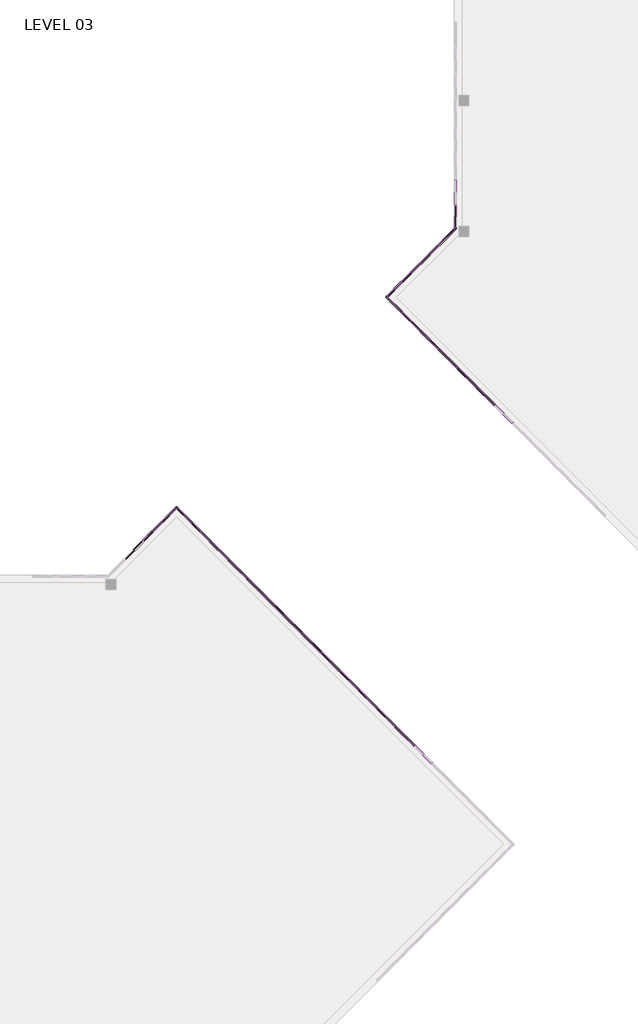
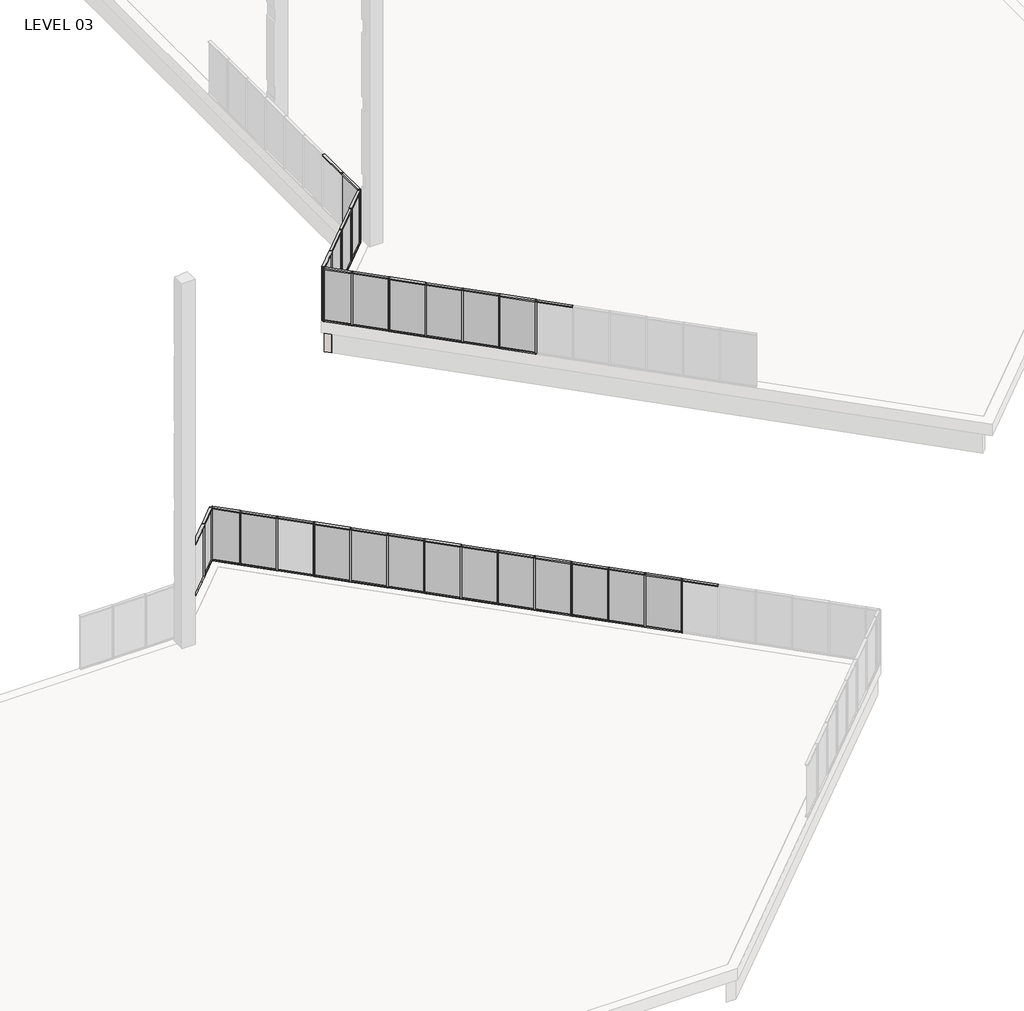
# One storey, part 9 of 18: 85 members, 24 plates, 2 walls.
"""IFC4 building model written with IfcOpenShell, lengths in millimetres."""

from ifc_helpers import new_model, si_unit, origin, place, context, project, spatial, faceted_brep, transform, mapped, element, save
from components import member_5247f267, member_e44af9ab, member_800970d4, member_910c08c9, member_dd9f6d43, member_45eb7f2e, plate_67294edd, plate_88df3e37, plate_c3b8b83d, plate_6ecefdb5, plate_9c66726c, plate_129ab9d0

model = new_model("IFC4")

# Units and contexts
model_context = context("Model", 3, world=origin())
ifc_project = project(units=[si_unit("LENGTHUNIT", "METRE", prefix="MILLI")], contexts=[model_context])

# Site, building, storey
site = spatial("IfcSite", under=ifc_project)
building = spatial("IfcBuilding", under=site)
storey = spatial("IfcBuildingStorey", under=building, Name="LEVEL 03", Elevation=8280.4)

# Members
placement = place(None, origin())
member_shape = member_5247f267(model_context)
element("IfcMember", 1, ObjectType="Rectangular Mullion : 2\" x 4.5\" rectangular", at=placement, inside=storey, context=model_context, shape_type="MappedRepresentation", body=[
    mapped(member_shape, transform((58839.186821, 16282.6021867, 8280.4), x_axis=(0.0, 0.0, -1.0), y_axis=(0.7071067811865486, 0.7071067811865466, 0.0), z_axis=(0.7071067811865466, -0.7071067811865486, 0.0))),
])
element("IfcMember", 2, ObjectType="Rectangular Mullion : 2\" x 4.5\" rectangular", at=placement, inside=storey, context=model_context, shape_type="MappedRepresentation", body=[
    mapped(member_shape, transform((57761.5560865, 17360.2329212, 8280.4), x_axis=(0.0, 0.0, -1.0), y_axis=(0.7071067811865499, 0.7071067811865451, 0.0), z_axis=(0.7071067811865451, -0.7071067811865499, 0.0))),
])
element("IfcMember", 3, ObjectType="Rectangular Mullion : 2\" x 4.5\" rectangular", at=placement, inside=storey, context=model_context, shape_type="MappedRepresentation", body=[
    mapped(member_shape, transform((56683.925352, 18437.8636558, 8280.4), x_axis=(0.0, 0.0, -1.0), y_axis=(0.7071067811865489, 0.7071067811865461, 0.0), z_axis=(0.7071067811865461, -0.7071067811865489, 0.0))),
])
element("IfcMember", 4, ObjectType="Rectangular Mullion : 2\" x 4.5\" rectangular", at=placement, inside=storey, context=model_context, shape_type="MappedRepresentation", body=[
    mapped(member_shape, transform((53451.3904937, 21670.3985141, 8280.4), x_axis=(0.0, 0.0, -1.0), y_axis=(0.7071067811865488, 0.7071067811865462, 0.0), z_axis=(0.7071067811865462, -0.7071067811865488, 0.0))),
])
element("IfcMember", 5, ObjectType="Rectangular Mullion : 2\" x 4.5\" rectangular", at=placement, inside=storey, context=model_context, shape_type="MappedRepresentation", body=[
    mapped(member_shape, transform((52373.7597592, 22748.0292486, 8280.4), x_axis=(0.0, 0.0, -1.0), y_axis=(0.7071067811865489, 0.7071067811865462, 0.0), z_axis=(0.7071067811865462, -0.7071067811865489, 0.0))),
])
element("IfcMember", 6, ObjectType="Rectangular Mullion : 2\" x 4.5\" rectangular", at=placement, inside=storey, context=model_context, shape_type="MappedRepresentation", body=[
    mapped(member_shape, transform((51296.1290246, 23825.6599831, 8280.4), x_axis=(0.0, 0.0, -1.0), y_axis=(0.7071067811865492, 0.7071067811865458, 0.0), z_axis=(0.7071067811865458, -0.7071067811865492, 0.0))),
])
element("IfcMember", 7, ObjectType="Rectangular Mullion : 2\" x 4.5\" rectangular", at=placement, inside=storey, context=model_context, shape_type="MappedRepresentation", body=[
    mapped(member_shape, transform((44188.0075145, 29177.8965222, 8280.4), x_axis=(0.0, 0.0, -1.0), y_axis=(-0.7071067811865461, 0.7071067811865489, 0.0), z_axis=(0.7071067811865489, 0.7071067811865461, 0.0))),
])
element("IfcMember", 8, ObjectType="Rectangular Mullion : 2\" x 4.5\" rectangular", at=placement, inside=storey, context=model_context, shape_type="MappedRepresentation", body=[
    mapped(member_shape, transform((50218.4982901, 24903.2907176, 8280.4), x_axis=(0.0, 0.0, -1.0), y_axis=(0.7071067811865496, 0.7071067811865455, 0.0), z_axis=(0.7071067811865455, -0.7071067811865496, 0.0))),
])
element("IfcMember", 9, ObjectType="Rectangular Mullion : 2\" x 4.5\" rectangular", at=placement, inside=storey, context=model_context, shape_type="MappedRepresentation", body=[
    mapped(member_shape, transform((49140.8675556, 25980.9214522, 8280.4), x_axis=(0.0, 0.0, -1.0), y_axis=(0.7071067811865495, 0.7071067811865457, 0.0), z_axis=(0.7071067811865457, -0.7071067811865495, 0.0))),
])
element("IfcMember", 10, ObjectType="Rectangular Mullion : 2\" x 4.5\" rectangular", at=placement, inside=storey, context=model_context, shape_type="MappedRepresentation", body=[
    mapped(member_shape, transform((48063.236821, 27058.5521867, 8280.4), x_axis=(0.0, 0.0, -1.0), y_axis=(0.7071067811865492, 0.7071067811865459, 0.0), z_axis=(0.7071067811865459, -0.7071067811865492, 0.0))),
])
element("IfcMember", 11, ObjectType="Rectangular Mullion : 2\" x 4.5\" rectangular", at=placement, inside=storey, context=model_context, shape_type="MappedRepresentation", body=[
    mapped(member_shape, transform((46985.6060865, 28136.1829212, 8280.4), x_axis=(0.0, 0.0, -1.0), y_axis=(0.707106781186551, 0.7071067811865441, 0.0), z_axis=(0.7071067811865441, -0.707106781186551, 0.0))),
])
element("IfcMember", 12, ObjectType="Rectangular Mullion : 2\" x 4.5\" rectangular", at=placement, inside=storey, context=model_context, shape_type="MappedRepresentation", body=[
    mapped(member_shape, transform((43110.3767799, 28100.2657877, 8280.4), x_axis=(0.0, 0.0, -1.0), y_axis=(-0.7071067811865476, 0.7071067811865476, 0.0), z_axis=(0.7071067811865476, 0.7071067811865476, 0.0))),
])
element("IfcMember", 13, ObjectType="Rectangular Mullion : 2\" x 4.5\" rectangular", at=placement, inside=storey, context=model_context, shape_type="MappedRepresentation", body=[
    mapped(member_shape, transform((58875.1078455, 16246.6811622, 10871.2), x_axis=(0.0, 0.0, 1.0), y_axis=(0.7071067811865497, 0.7071067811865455, 0.0), z_axis=(-0.7071067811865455, 0.7071067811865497, 0.0))),
])
element("IfcMember", 14, ObjectType="Rectangular Mullion : 2\" x 4.5\" rectangular", at=placement, inside=storey, context=model_context, shape_type="MappedRepresentation", body=[
    mapped(member_shape, transform((57797.477111, 17324.3118967, 10871.2), x_axis=(0.0, 0.0, 1.0), y_axis=(0.7071067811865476, 0.7071067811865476, 0.0), z_axis=(-0.7071067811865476, 0.7071067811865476, 0.0))),
])
element("IfcMember", 15, ObjectType="Rectangular Mullion : 2\" x 4.5\" rectangular", at=placement, inside=storey, context=model_context, shape_type="MappedRepresentation", body=[
    mapped(member_shape, transform((56719.8463765, 18401.9426313, 10871.2), x_axis=(0.0, 0.0, 1.0), y_axis=(0.7071067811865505, 0.7071067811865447, 0.0), z_axis=(-0.7071067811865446, 0.7071067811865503, 0.0))),
])
element("IfcMember", 16, ObjectType="Rectangular Mullion : 2\" x 4.5\" rectangular", at=placement, inside=storey, context=model_context, shape_type="MappedRepresentation", body=[
    mapped(member_shape, transform((55642.2156419, 19479.5733658, 10871.2), x_axis=(0.0, 0.0, 1.0), y_axis=(0.707106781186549, 0.7071067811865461, 0.0), z_axis=(-0.707106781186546, 0.7071067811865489, 0.0))),
])
element("IfcMember", 17, ObjectType="Rectangular Mullion : 2\" x 4.5\" rectangular", at=placement, inside=storey, context=model_context, shape_type="MappedRepresentation", body=[
    mapped(member_shape, transform((52409.6807836, 22712.1082241, 10871.2), x_axis=(0.0, 0.0, 1.0), y_axis=(0.7071067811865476, 0.7071067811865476, 0.0), z_axis=(-0.7071067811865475, 0.7071067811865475, 0.0))),
])
element("IfcMember", 18, ObjectType="Rectangular Mullion : 2\" x 4.5\" rectangular", at=placement, inside=storey, context=model_context, shape_type="MappedRepresentation", body=[
    mapped(member_shape, transform((51332.0500491, 23789.7389586, 10871.2), x_axis=(0.0, 0.0, 1.0), y_axis=(0.7071067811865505, 0.7071067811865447, 0.0), z_axis=(-0.7071067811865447, 0.7071067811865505, 0.0))),
])
element("IfcMember", 19, ObjectType="Rectangular Mullion : 2\" x 4.5\" rectangular", at=placement, inside=storey, context=model_context, shape_type="MappedRepresentation", body=[
    mapped(member_shape, transform((50254.4193146, 24867.3696932, 10871.2), x_axis=(0.0, 0.0, 1.0), y_axis=(0.7071067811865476, 0.7071067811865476, 0.0), z_axis=(-0.7071067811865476, 0.7071067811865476, 0.0))),
])
element("IfcMember", 20, ObjectType="Rectangular Mullion : 2\" x 4.5\" rectangular", at=placement, inside=storey, context=model_context, shape_type="MappedRepresentation", body=[
    mapped(member_shape, transform((49176.7885801, 25945.0004277, 10871.2), x_axis=(0.0, 0.0, 1.0), y_axis=(0.7071067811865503, 0.7071067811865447, 0.0), z_axis=(-0.7071067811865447, 0.7071067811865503, 0.0))),
])
element("IfcMember", 21, ObjectType="Rectangular Mullion : 2\" x 4.5\" rectangular", at=placement, inside=storey, context=model_context, shape_type="MappedRepresentation", body=[
    mapped(member_shape, transform((48099.1578455, 27022.6311622, 10871.2), x_axis=(0.0, 0.0, 1.0), y_axis=(0.707106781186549, 0.7071067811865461, 0.0), z_axis=(-0.7071067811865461, 0.707106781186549, 0.0))),
])
element("IfcMember", 22, ObjectType="Rectangular Mullion : 2\" x 4.5\" rectangular", at=placement, inside=storey, context=model_context, shape_type="MappedRepresentation", body=[
    mapped(member_shape, transform((47021.527111, 28100.2618967, 10871.2), x_axis=(0.0, 0.0, 1.0), y_axis=(0.707106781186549, 0.7071067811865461, 0.0), z_axis=(-0.707106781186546, 0.7071067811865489, 0.0))),
])
element("IfcMember", 23, ObjectType="Rectangular Mullion : 2\" x 4.5\" rectangular", at=placement, inside=storey, context=model_context, shape_type="MappedRepresentation", body=[
    mapped(member_shape, transform((45943.8963765, 29177.8926313, 10871.2), x_axis=(0.0, 0.0, 1.0), y_axis=(0.7071067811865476, 0.7071067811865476, 0.0), z_axis=(-0.7071067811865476, 0.7071067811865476, 0.0))),
])
element("IfcMember", 24, ObjectType="Rectangular Mullion : 2\" x 4.5\" rectangular", at=placement, inside=storey, context=model_context, shape_type="MappedRepresentation", body=[
    mapped(member_shape, transform((43146.2978044, 28136.1868122, 10871.2), x_axis=(0.0, 0.0, 1.0), y_axis=(-0.707106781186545, 0.70710678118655, 0.0), z_axis=(-0.7071067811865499, -0.7071067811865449, 0.0))),
])
member_2_shape = member_e44af9ab(model_context)
element("IfcMember", 25, ObjectType="Rectangular Mullion : 2\" x 4.5\" rectangular", at=placement, inside=storey, context=model_context, shape_type="MappedRepresentation", body=[
    mapped(member_2_shape, transform((58857.1473333, 16264.6416745, 8280.4), x_axis=(-0.7071067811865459, 0.7071067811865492, 0.0), y_axis=(0.7071067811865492, 0.7071067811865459, 0.0), z_axis=(0.0, 0.0, -1.0))),
])
element("IfcMember", 26, ObjectType="Rectangular Mullion : 2\" x 4.5\" rectangular", at=placement, inside=storey, context=model_context, shape_type="MappedRepresentation", body=[
    mapped(member_2_shape, transform((57779.5165988, 17342.272409, 8280.4), x_axis=(-0.7071067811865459, 0.7071067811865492, 0.0), y_axis=(0.7071067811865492, 0.7071067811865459, 0.0), z_axis=(0.0, 0.0, -1.0))),
])
element("IfcMember", 27, ObjectType="Rectangular Mullion : 2\" x 4.5\" rectangular", at=placement, inside=storey, context=model_context, shape_type="MappedRepresentation", body=[
    mapped(member_2_shape, transform((56701.8858642, 18419.9031435, 8280.4), x_axis=(-0.7071067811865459, 0.7071067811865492, 0.0), y_axis=(0.7071067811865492, 0.7071067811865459, 0.0), z_axis=(0.0, 0.0, -1.0))),
])
element("IfcMember", 28, ObjectType="Rectangular Mullion : 2\" x 4.5\" rectangular", at=placement, inside=storey, context=model_context, shape_type="MappedRepresentation", body=[
    mapped(member_2_shape, transform((55624.2551297, 19497.533878, 8280.4), x_axis=(-0.7071067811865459, 0.7071067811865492, 0.0), y_axis=(0.7071067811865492, 0.7071067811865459, 0.0), z_axis=(0.0, 0.0, -1.0))),
])
element("IfcMember", 29, ObjectType="Rectangular Mullion : 2\" x 4.5\" rectangular", at=placement, inside=storey, context=model_context, shape_type="MappedRepresentation", body=[
    mapped(member_2_shape, transform((53469.3510059, 21652.4380018, 8280.4), x_axis=(-0.7071067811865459, 0.7071067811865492, 0.0), y_axis=(0.7071067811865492, 0.7071067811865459, 0.0), z_axis=(0.0, 0.0, -1.0))),
])
element("IfcMember", 30, ObjectType="Rectangular Mullion : 2\" x 4.5\" rectangular", at=placement, inside=storey, context=model_context, shape_type="MappedRepresentation", body=[
    mapped(member_2_shape, transform((52391.7202714, 22730.0687363, 8280.4), x_axis=(-0.7071067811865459, 0.7071067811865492, 0.0), y_axis=(0.7071067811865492, 0.7071067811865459, 0.0), z_axis=(0.0, 0.0, -1.0))),
])
element("IfcMember", 31, ObjectType="Rectangular Mullion : 2\" x 4.5\" rectangular", at=placement, inside=storey, context=model_context, shape_type="MappedRepresentation", body=[
    mapped(member_2_shape, transform((51314.0895369, 23807.6994709, 8280.4), x_axis=(-0.7071067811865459, 0.7071067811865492, 0.0), y_axis=(0.7071067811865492, 0.7071067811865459, 0.0), z_axis=(0.0, 0.0, -1.0))),
])
element("IfcMember", 32, ObjectType="Rectangular Mullion : 2\" x 4.5\" rectangular", at=placement, inside=storey, context=model_context, shape_type="MappedRepresentation", body=[
    mapped(member_2_shape, transform((44205.9680267, 29195.8570344, 8280.4), x_axis=(-0.7071067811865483, -0.7071067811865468, 0.0), y_axis=(-0.7071067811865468, 0.7071067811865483, 0.0), z_axis=(0.0, 0.0, -1.0))),
])
element("IfcMember", 33, ObjectType="Rectangular Mullion : 2\" x 4.5\" rectangular", at=placement, inside=storey, context=model_context, shape_type="MappedRepresentation", body=[
    mapped(member_2_shape, transform((54546.8030678, 20574.9859399, 8280.4), x_axis=(-0.7071067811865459, 0.7071067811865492, 0.0), y_axis=(0.7071067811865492, 0.7071067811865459, 0.0), z_axis=(0.0, 0.0, -1.0))),
])
element("IfcMember", 34, ObjectType="Rectangular Mullion : 2\" x 4.5\" rectangular", at=placement, inside=storey, context=model_context, shape_type="MappedRepresentation", body=[
    mapped(member_2_shape, transform((50236.4588023, 24885.3302054, 8280.4), x_axis=(-0.7071067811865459, 0.7071067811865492, 0.0), y_axis=(0.7071067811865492, 0.7071067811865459, 0.0), z_axis=(0.0, 0.0, -1.0))),
])
element("IfcMember", 35, ObjectType="Rectangular Mullion : 2\" x 4.5\" rectangular", at=placement, inside=storey, context=model_context, shape_type="MappedRepresentation", body=[
    mapped(member_2_shape, transform((49158.8280678, 25962.9609399, 8280.4), x_axis=(-0.7071067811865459, 0.7071067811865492, 0.0), y_axis=(0.7071067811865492, 0.7071067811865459, 0.0), z_axis=(0.0, 0.0, -1.0))),
])
element("IfcMember", 36, ObjectType="Rectangular Mullion : 2\" x 4.5\" rectangular", at=placement, inside=storey, context=model_context, shape_type="MappedRepresentation", body=[
    mapped(member_2_shape, transform((48081.1973333, 27040.5916745, 8280.4), x_axis=(-0.7071067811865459, 0.7071067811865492, 0.0), y_axis=(0.7071067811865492, 0.7071067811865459, 0.0), z_axis=(0.0, 0.0, -1.0))),
])
element("IfcMember", 37, ObjectType="Rectangular Mullion : 2\" x 4.5\" rectangular", at=placement, inside=storey, context=model_context, shape_type="MappedRepresentation", body=[
    mapped(member_2_shape, transform((47003.5665988, 28118.222409, 8280.4), x_axis=(-0.7071067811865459, 0.7071067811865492, 0.0), y_axis=(0.7071067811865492, 0.7071067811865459, 0.0), z_axis=(0.0, 0.0, -1.0))),
])
element("IfcMember", 38, ObjectType="Rectangular Mullion : 2\" x 4.5\" rectangular", at=placement, inside=storey, context=model_context, shape_type="MappedRepresentation", body=[
    mapped(member_2_shape, transform((45925.9358642, 29195.8531435, 8280.4), x_axis=(-0.7071067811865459, 0.7071067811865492, 0.0), y_axis=(0.7071067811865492, 0.7071067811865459, 0.0), z_axis=(0.0, 0.0, -1.0))),
])
element("IfcMember", 39, ObjectType="Rectangular Mullion : 2\" x 4.5\" rectangular", at=placement, inside=storey, context=model_context, shape_type="MappedRepresentation", body=[
    mapped(member_2_shape, transform((43128.3372922, 28118.2262999, 8280.4), x_axis=(-0.7071067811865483, -0.7071067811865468, 0.0), y_axis=(-0.7071067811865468, 0.7071067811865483, 0.0), z_axis=(0.0, 0.0, -1.0))),
])
member_3_shape = member_800970d4(model_context)
element("IfcMember", 40, ObjectType="Rectangular Mullion : 2\" x 4.5\" rectangular", at=placement, inside=storey, context=model_context, shape_type="MappedRepresentation", body=[
    mapped(member_3_shape, transform((45065.95, 30055.8390077, 8280.4), x_axis=(-0.7071067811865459, 0.7071067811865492, 0.0), y_axis=(0.7071067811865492, 0.7071067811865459, 0.0), z_axis=(0.0, 0.0, -1.0))),
])
element("IfcMember", 41, ObjectType="Rectangular Mullion : 2\" x 4.5\" rectangular", at=placement, inside=storey, context=model_context, shape_type="MappedRepresentation", body=[
    mapped(member_3_shape, transform((45065.95, 30055.8390077, 10871.2), x_axis=(0.7071067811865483, 0.7071067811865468, 0.0), y_axis=(-0.7071067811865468, 0.7071067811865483, 0.0), z_axis=(0.0, 0.0, 1.0))),
])
member_4_shape = member_910c08c9(model_context)
element("IfcMember", 42, ObjectType="Rectangular Mullion : 2\" x 4.5\" rectangular", at=placement, inside=storey, context=model_context, shape_type="MappedRepresentation", body=[
    mapped(member_4_shape, transform((53487.3115182, 21634.4774896, 10871.2), x_axis=(0.0, 0.0, 1.0), y_axis=(0.7071067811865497, 0.7071067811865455, 0.0), z_axis=(-0.7071067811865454, 0.7071067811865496, 0.0))),
])
element("IfcMember", 43, ObjectType="Rectangular Mullion : 2\" x 4.5\" rectangular", at=placement, inside=storey, context=model_context, shape_type="MappedRepresentation", body=[
    mapped(member_4_shape, transform((54564.7635801, 20557.0254277, 10871.2), x_axis=(0.0, 0.0, 1.0), y_axis=(0.707106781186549, 0.7071067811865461, 0.0), z_axis=(-0.707106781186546, 0.7071067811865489, 0.0))),
])
element("IfcMember", 44, ObjectType="Rectangular Mullion : 2\" x 4.5\" rectangular", at=placement, inside=storey, context=model_context, shape_type="MappedRepresentation", body=[
    mapped(member_4_shape, transform((55606.2946175, 19515.4943903, 8280.4), x_axis=(0.0, 0.0, -1.0), y_axis=(0.7071067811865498, 0.7071067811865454, 0.0), z_axis=(0.7071067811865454, -0.7071067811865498, 0.0))),
])
element("IfcMember", 45, ObjectType="Rectangular Mullion : 2\" x 4.5\" rectangular", at=placement, inside=storey, context=model_context, shape_type="MappedRepresentation", body=[
    mapped(member_4_shape, transform((54528.8425556, 20592.9464522, 8280.4), x_axis=(0.0, 0.0, -1.0), y_axis=(0.7071067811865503, 0.7071067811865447, 0.0), z_axis=(0.7071067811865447, -0.7071067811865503, 0.0))),
])
member_5_shape = member_dd9f6d43(model_context)
element("IfcMember", 46, ObjectType="Rectangular Mullion : 2\" x 4.5\" rectangular", at=placement, inside=storey, context=model_context, shape_type="MappedRepresentation", body=[
    mapped(member_5_shape, transform((45101.8710245, 30019.9179833, 10871.2), x_axis=(0.0, 0.0, 1.0), y_axis=(0.7071067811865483, 0.7071067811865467, 0.0), z_axis=(-0.7071067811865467, 0.7071067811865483, 0.0))),
])
element("IfcMember", 47, ObjectType="Rectangular Mullion : 2\" x 4.5\" rectangular", at=placement, inside=storey, context=model_context, shape_type="MappedRepresentation", body=[
    mapped(member_5_shape, transform((44223.9285389, 29213.8175467, 10871.2), x_axis=(0.0, 0.0, 1.0), y_axis=(-0.7071067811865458, 0.7071067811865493, 0.0), z_axis=(-0.7071067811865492, -0.7071067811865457, 0.0))),
])
element("IfcMember", 48, ObjectType="Rectangular Mullion : 2\" x 4.5\" rectangular", at=placement, inside=storey, context=model_context, shape_type="MappedRepresentation", body=[
    mapped(member_5_shape, transform((45030.0289755, 30019.9179833, 8280.4), x_axis=(0.0, 0.0, -1.0), y_axis=(-0.7071067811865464, 0.7071067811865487, 0.0), z_axis=(0.7071067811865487, 0.7071067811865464, 0.0))),
])
element("IfcMember", 49, ObjectType="Rectangular Mullion : 2\" x 4.5\" rectangular", at=placement, inside=storey, context=model_context, shape_type="MappedRepresentation", body=[
    mapped(member_5_shape, transform((45907.975352, 29213.8136558, 8280.4), x_axis=(0.0, 0.0, -1.0), y_axis=(0.7071067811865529, 0.7071067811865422, 0.0), z_axis=(0.7071067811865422, -0.7071067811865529, 0.0))),
])
element("IfcMember", 50, ObjectType="Rectangular Mullion : 2\" x 4.5\" rectangular", at=placement, inside=storey, context=model_context, shape_type="MappedRepresentation", body=[
    mapped(member_shape, transform((61263.7847164, 47637.3675885, 10871.2), x_axis=(0.0, 0.0, 1.0), y_axis=(-1.0, 0.0, 0.0), z_axis=(0.0, -1.0, 0.0))),
])
element("IfcMember", 51, ObjectType="Rectangular Mullion : 2\" x 4.5\" rectangular", at=placement, inside=storey, context=model_context, shape_type="MappedRepresentation", body=[
    mapped(member_shape, transform((63554.1786299, 36011.8675394, 10871.2), x_axis=(0.0, 0.0, 1.0), y_axis=(0.7071067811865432, 0.7071067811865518, 0.0), z_axis=(-0.7071067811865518, 0.7071067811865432, 0.0))),
])
element("IfcMember", 52, ObjectType="Rectangular Mullion : 2\" x 4.5\" rectangular", at=placement, inside=storey, context=model_context, shape_type="MappedRepresentation", body=[
    mapped(member_shape, transform((60285.3615109, 45275.2505186, 10871.2), x_axis=(0.0, 0.0, 1.0), y_axis=(0.7071067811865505, -0.7071067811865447, 0.0), z_axis=(0.7071067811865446, 0.7071067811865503, 0.0))),
])
element("IfcMember", 53, ObjectType="Rectangular Mullion : 2\" x 4.5\" rectangular", at=placement, inside=storey, context=model_context, shape_type="MappedRepresentation", body=[
    mapped(member_shape, transform((62476.5478954, 37089.4982739, 10871.2), x_axis=(0.0, 0.0, 1.0), y_axis=(0.7071067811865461, 0.7071067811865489, 0.0), z_axis=(-0.7071067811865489, 0.7071067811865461, 0.0))),
])
element("IfcMember", 54, ObjectType="Rectangular Mullion : 2\" x 4.5\" rectangular", at=placement, inside=storey, context=model_context, shape_type="MappedRepresentation", body=[
    mapped(member_shape, transform((61398.9171608, 38167.1290085, 10871.2), x_axis=(0.0, 0.0, 1.0), y_axis=(0.7071067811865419, 0.7071067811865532, 0.0), z_axis=(-0.7071067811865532, 0.7071067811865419, 0.0))),
])
element("IfcMember", 55, ObjectType="Rectangular Mullion : 2\" x 4.5\" rectangular", at=placement, inside=storey, context=model_context, shape_type="MappedRepresentation", body=[
    mapped(member_shape, transform((60321.2864263, 39244.759743, 10871.2), x_axis=(0.0, 0.0, 1.0), y_axis=(0.7071067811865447, 0.7071067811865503, 0.0), z_axis=(-0.7071067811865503, 0.7071067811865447, 0.0))),
])
element("IfcMember", 56, ObjectType="Rectangular Mullion : 2\" x 4.5\" rectangular", at=placement, inside=storey, context=model_context, shape_type="MappedRepresentation", body=[
    mapped(member_shape, transform((59243.6556918, 40322.3904775, 10871.2), x_axis=(0.0, 0.0, 1.0), y_axis=(0.7071067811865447, 0.7071067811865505, 0.0), z_axis=(-0.7071067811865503, 0.7071067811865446, 0.0))),
])
element("IfcMember", 57, ObjectType="Rectangular Mullion : 2\" x 4.5\" rectangular", at=placement, inside=storey, context=model_context, shape_type="MappedRepresentation", body=[
    mapped(member_shape, transform((58166.0249572, 41400.021212, 10871.2), x_axis=(0.0, 0.0, 1.0), y_axis=(0.7071067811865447, 0.7071067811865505, 0.0), z_axis=(-0.7071067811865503, 0.7071067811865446, 0.0))),
])
element("IfcMember", 58, ObjectType="Rectangular Mullion : 2\" x 4.5\" rectangular", at=placement, inside=storey, context=model_context, shape_type="MappedRepresentation", body=[
    mapped(member_shape, transform((59207.7307764, 44197.6197841, 10871.2), x_axis=(0.0, 0.0, 1.0), y_axis=(0.7071067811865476, -0.7071067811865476, 0.0), z_axis=(0.7071067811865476, 0.7071067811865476, 0.0))),
])
element("IfcMember", 59, ObjectType="Rectangular Mullion : 2\" x 4.5\" rectangular", at=placement, inside=storey, context=model_context, shape_type="MappedRepresentation", body=[
    mapped(member_shape, transform((63518.2576054, 36047.7885639, 8280.4), x_axis=(0.0, 0.0, -1.0), y_axis=(0.7071067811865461, 0.7071067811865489, 0.0), z_axis=(0.7071067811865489, -0.7071067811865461, 0.0))),
])
element("IfcMember", 60, ObjectType="Rectangular Mullion : 2\" x 4.5\" rectangular", at=placement, inside=storey, context=model_context, shape_type="MappedRepresentation", body=[
    mapped(member_shape, transform((58166.0210663, 43155.9100741, 8280.4), x_axis=(0.0, 0.0, -1.0), y_axis=(0.7071067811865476, -0.7071067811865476, 0.0), z_axis=(-0.7071067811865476, -0.7071067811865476, 0.0))),
])
element("IfcMember", 61, ObjectType="Rectangular Mullion : 2\" x 4.5\" rectangular", at=placement, inside=storey, context=model_context, shape_type="MappedRepresentation", body=[
    mapped(member_shape, transform((62440.6268709, 37125.4192984, 8280.4), x_axis=(0.0, 0.0, -1.0), y_axis=(0.7071067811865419, 0.7071067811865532, 0.0), z_axis=(0.7071067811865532, -0.7071067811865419, 0.0))),
])
element("IfcMember", 62, ObjectType="Rectangular Mullion : 2\" x 4.5\" rectangular", at=placement, inside=storey, context=model_context, shape_type="MappedRepresentation", body=[
    mapped(member_shape, transform((61362.9961363, 38203.0500329, 8280.4), x_axis=(0.0, 0.0, -1.0), y_axis=(0.7071067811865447, 0.7071067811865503, 0.0), z_axis=(0.7071067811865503, -0.7071067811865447, 0.0))),
])
element("IfcMember", 63, ObjectType="Rectangular Mullion : 2\" x 4.5\" rectangular", at=placement, inside=storey, context=model_context, shape_type="MappedRepresentation", body=[
    mapped(member_shape, transform((60285.3654018, 39280.6807675, 8280.4), x_axis=(0.0, 0.0, -1.0), y_axis=(0.7071067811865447, 0.7071067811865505, 0.0), z_axis=(0.7071067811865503, -0.7071067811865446, 0.0))),
])
element("IfcMember", 64, ObjectType="Rectangular Mullion : 2\" x 4.5\" rectangular", at=placement, inside=storey, context=model_context, shape_type="MappedRepresentation", body=[
    mapped(member_shape, transform((59207.7346673, 40358.311502, 8280.4), x_axis=(0.0, 0.0, -1.0), y_axis=(0.7071067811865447, 0.7071067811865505, 0.0), z_axis=(0.7071067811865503, -0.7071067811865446, 0.0))),
])
element("IfcMember", 65, ObjectType="Rectangular Mullion : 2\" x 4.5\" rectangular", at=placement, inside=storey, context=model_context, shape_type="MappedRepresentation", body=[
    mapped(member_shape, transform((59243.6518008, 44233.5408086, 8280.4), x_axis=(0.0, 0.0, -1.0), y_axis=(0.7071067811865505, -0.7071067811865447, 0.0), z_axis=(-0.7071067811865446, -0.7071067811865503, 0.0))),
])
element("IfcMember", 66, ObjectType="Rectangular Mullion : 2\" x 4.5\" rectangular", at=placement, inside=storey, context=model_context, shape_type="MappedRepresentation", body=[
    mapped(member_2_shape, transform((63536.2181176, 36029.8280517, 8280.4), x_axis=(-0.7071067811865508, 0.7071067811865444, 0.0), y_axis=(0.7071067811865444, 0.7071067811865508, 0.0), z_axis=(0.0, 0.0, -1.0))),
])
element("IfcMember", 67, ObjectType="Rectangular Mullion : 2\" x 4.5\" rectangular", at=placement, inside=storey, context=model_context, shape_type="MappedRepresentation", body=[
    mapped(member_2_shape, transform((58148.0605541, 43137.9495618, 8280.4), x_axis=(0.7071067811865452, 0.7071067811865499, 0.0), y_axis=(0.7071067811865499, -0.7071067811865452, 0.0), z_axis=(0.0, 0.0, -1.0))),
])
element("IfcMember", 68, ObjectType="Rectangular Mullion : 2\" x 4.5\" rectangular", at=placement, inside=storey, context=model_context, shape_type="MappedRepresentation", body=[
    mapped(member_2_shape, transform((60303.3220231, 45293.2110309, 8280.4), x_axis=(0.7071067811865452, 0.7071067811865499, 0.0), y_axis=(0.7071067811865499, -0.7071067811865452, 0.0), z_axis=(0.0, 0.0, -1.0))),
])
element("IfcMember", 69, ObjectType="Rectangular Mullion : 2\" x 4.5\" rectangular", at=placement, inside=storey, context=model_context, shape_type="MappedRepresentation", body=[
    mapped(member_2_shape, transform((62458.5873831, 37107.4587862, 8280.4), x_axis=(-0.7071067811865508, 0.7071067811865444, 0.0), y_axis=(0.7071067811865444, 0.7071067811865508, 0.0), z_axis=(0.0, 0.0, -1.0))),
])
element("IfcMember", 70, ObjectType="Rectangular Mullion : 2\" x 4.5\" rectangular", at=placement, inside=storey, context=model_context, shape_type="MappedRepresentation", body=[
    mapped(member_2_shape, transform((61380.9566486, 38185.0895207, 8280.4), x_axis=(-0.7071067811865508, 0.7071067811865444, 0.0), y_axis=(0.7071067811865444, 0.7071067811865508, 0.0), z_axis=(0.0, 0.0, -1.0))),
])
element("IfcMember", 71, ObjectType="Rectangular Mullion : 2\" x 4.5\" rectangular", at=placement, inside=storey, context=model_context, shape_type="MappedRepresentation", body=[
    mapped(member_2_shape, transform((60303.3259141, 39262.7202552, 8280.4), x_axis=(-0.7071067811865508, 0.7071067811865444, 0.0), y_axis=(0.7071067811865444, 0.7071067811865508, 0.0), z_axis=(0.0, 0.0, -1.0))),
])
element("IfcMember", 72, ObjectType="Rectangular Mullion : 2\" x 4.5\" rectangular", at=placement, inside=storey, context=model_context, shape_type="MappedRepresentation", body=[
    mapped(member_2_shape, transform((59225.6951795, 40340.3509898, 8280.4), x_axis=(-0.7071067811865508, 0.7071067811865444, 0.0), y_axis=(0.7071067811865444, 0.7071067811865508, 0.0), z_axis=(0.0, 0.0, -1.0))),
])
element("IfcMember", 73, ObjectType="Rectangular Mullion : 2\" x 4.5\" rectangular", at=placement, inside=storey, context=model_context, shape_type="MappedRepresentation", body=[
    mapped(member_2_shape, transform((58148.064445, 41417.9817243, 8280.4), x_axis=(-0.7071067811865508, 0.7071067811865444, 0.0), y_axis=(0.7071067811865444, 0.7071067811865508, 0.0), z_axis=(0.0, 0.0, -1.0))),
])
element("IfcMember", 74, ObjectType="Rectangular Mullion : 2\" x 4.5\" rectangular", at=placement, inside=storey, context=model_context, shape_type="MappedRepresentation", body=[
    mapped(member_2_shape, transform((59225.6912886, 44215.5802963, 8280.4), x_axis=(0.7071067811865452, 0.7071067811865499, 0.0), y_axis=(0.7071067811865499, -0.7071067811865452, 0.0), z_axis=(0.0, 0.0, -1.0))),
])
element("IfcMember", 75, ObjectType="Rectangular Mullion : 2\" x 4.5\" rectangular", at=placement, inside=storey, context=model_context, shape_type="MappedRepresentation", body=[
    mapped(member_3_shape, transform((61263.7847164, 46253.6737241, 8280.4), x_axis=(0.0, -1.0, 0.0), y_axis=(-1.0, 0.0, 0.0), z_axis=(0.0, 0.0, -1.0))),
])
element("IfcMember", 76, ObjectType="Rectangular Mullion : 2\" x 4.5\" rectangular", at=placement, inside=storey, context=model_context, shape_type="MappedRepresentation", body=[
    mapped(member_3_shape, transform((57288.0785808, 42277.9675885, 8280.4), x_axis=(-0.7071067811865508, 0.7071067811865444, 0.0), y_axis=(0.7071067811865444, 0.7071067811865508, 0.0), z_axis=(0.0, 0.0, -1.0))),
])
element("IfcMember", 77, ObjectType="Rectangular Mullion : 2\" x 4.5\" rectangular", at=placement, inside=storey, context=model_context, shape_type="MappedRepresentation", body=[
    mapped(member_3_shape, transform((61263.7847164, 46253.6737241, 8280.4), x_axis=(0.7071067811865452, 0.7071067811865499, 0.0), y_axis=(0.7071067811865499, -0.7071067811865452, 0.0), z_axis=(0.0, 0.0, -1.0))),
])
element("IfcMember", 78, ObjectType="Rectangular Mullion : 2\" x 4.5\" rectangular", at=placement, inside=storey, context=model_context, shape_type="MappedRepresentation", body=[
    mapped(member_3_shape, transform((57288.0785808, 42277.9675885, 10871.2), x_axis=(-0.7071067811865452, -0.7071067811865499, 0.0), y_axis=(0.7071067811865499, -0.7071067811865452, 0.0), z_axis=(0.0, 0.0, 1.0))),
])
member_6_shape = member_45eb7f2e(model_context)
element("IfcMember", 79, ObjectType="Rectangular Mullion : 2\" x 4.5\" rectangular", at=placement, inside=storey, context=model_context, shape_type="MappedRepresentation", body=[
    mapped(member_6_shape, transform((61263.7847164, 46304.4737241, 10871.2), x_axis=(0.0, 0.0, 1.0), y_axis=(-1.0, 0.0, 0.0), z_axis=(0.0, -1.0, 0.0))),
])
element("IfcMember", 80, ObjectType="Rectangular Mullion : 2\" x 4.5\" rectangular", at=placement, inside=storey, context=model_context, shape_type="MappedRepresentation", body=[
    mapped(member_6_shape, transform((61227.8636919, 46217.7526997, 10871.2), x_axis=(0.0, 0.0, 1.0), y_axis=(0.7071067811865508, -0.7071067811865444, 0.0), z_axis=(0.7071067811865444, 0.7071067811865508, 0.0))),
])
element("IfcMember", 81, ObjectType="Rectangular Mullion : 2\" x 4.5\" rectangular", at=placement, inside=storey, context=model_context, shape_type="MappedRepresentation", body=[
    mapped(member_6_shape, transform((60321.2825354, 45311.1715431, 8280.4), x_axis=(0.0, 0.0, -1.0), y_axis=(0.7071067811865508, -0.7071067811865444, 0.0), z_axis=(-0.7071067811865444, -0.7071067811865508, 0.0))),
])
element("IfcMember", 82, ObjectType="Rectangular Mullion : 2\" x 4.5\" rectangular", at=placement, inside=storey, context=model_context, shape_type="MappedRepresentation", body=[
    mapped(member_5_shape, transform((57323.9996053, 42242.046564, 10871.2), x_axis=(0.0, 0.0, 1.0), y_axis=(0.707106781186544, 0.7071067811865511, 0.0), z_axis=(-0.707106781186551, 0.7071067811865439, 0.0))),
])
element("IfcMember", 83, ObjectType="Rectangular Mullion : 2\" x 4.5\" rectangular", at=placement, inside=storey, context=model_context, shape_type="MappedRepresentation", body=[
    mapped(member_5_shape, transform((58130.1000418, 43119.9890496, 10871.2), x_axis=(0.0, 0.0, 1.0), y_axis=(0.7071067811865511, -0.707106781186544, 0.0), z_axis=(0.707106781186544, 0.7071067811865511, 0.0))),
])
element("IfcMember", 84, ObjectType="Rectangular Mullion : 2\" x 4.5\" rectangular", at=placement, inside=storey, context=model_context, shape_type="MappedRepresentation", body=[
    mapped(member_5_shape, transform((57323.9996053, 42313.888613, 8280.4), x_axis=(0.0, 0.0, -1.0), y_axis=(0.7071067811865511, -0.707106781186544, 0.0), z_axis=(-0.707106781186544, -0.7071067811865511, 0.0))),
])
element("IfcMember", 85, ObjectType="Rectangular Mullion : 2\" x 4.5\" rectangular", at=placement, inside=storey, context=model_context, shape_type="MappedRepresentation", body=[
    mapped(member_5_shape, transform((58130.1039328, 41435.9422365, 8280.4), x_axis=(0.0, 0.0, -1.0), y_axis=(0.707106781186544, 0.7071067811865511, 0.0), z_axis=(0.707106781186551, -0.7071067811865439, 0.0))),
])

# Plates
plate_shape = plate_67294edd(model_context)
element("IfcPlate", 86, ObjectType="System Panel : 1/4\" Glass", at=placement, inside=storey, context=model_context, shape_type="MappedRepresentation", body=[
    mapped(plate_shape, transform((58318.331966, 16803.4570417, 8331.2), x_axis=(-0.7071067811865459, 0.7071067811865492, 0.0), y_axis=(-0.7071067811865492, -0.7071067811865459, 0.0), z_axis=(0.0, 0.0, 1.0))),
])
element("IfcPlate", 87, ObjectType="System Panel : 1/4\" Glass", at=placement, inside=storey, context=model_context, shape_type="MappedRepresentation", body=[
    mapped(plate_shape, transform((57240.7012315, 17881.0877763, 8331.2), x_axis=(-0.7071067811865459, 0.7071067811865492, 0.0), y_axis=(-0.7071067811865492, -0.7071067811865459, 0.0), z_axis=(0.0, 0.0, 1.0))),
])
element("IfcPlate", 88, ObjectType="System Panel : 1/4\" Glass", at=placement, inside=storey, context=model_context, shape_type="MappedRepresentation", body=[
    mapped(plate_shape, transform((56163.070497, 18958.7185108, 8331.2), x_axis=(-0.7071067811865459, 0.7071067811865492, 0.0), y_axis=(-0.7071067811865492, -0.7071067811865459, 0.0), z_axis=(0.0, 0.0, 1.0))),
])
element("IfcPlate", 89, ObjectType="System Panel : 1/4\" Glass", at=placement, inside=storey, context=model_context, shape_type="MappedRepresentation", body=[
    mapped(plate_shape, transform((52930.5356387, 22191.2533691, 8331.2), x_axis=(-0.7071067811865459, 0.7071067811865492, 0.0), y_axis=(-0.7071067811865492, -0.7071067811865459, 0.0), z_axis=(0.0, 0.0, 1.0))),
])
element("IfcPlate", 90, ObjectType="System Panel : 1/4\" Glass", at=placement, inside=storey, context=model_context, shape_type="MappedRepresentation", body=[
    mapped(plate_shape, transform((51852.9049041, 23268.8841036, 8331.2), x_axis=(-0.7071067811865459, 0.7071067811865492, 0.0), y_axis=(-0.7071067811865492, -0.7071067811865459, 0.0), z_axis=(0.0, 0.0, 1.0))),
])
element("IfcPlate", 91, ObjectType="System Panel : 1/4\" Glass", at=placement, inside=storey, context=model_context, shape_type="MappedRepresentation", body=[
    mapped(plate_shape, transform((50775.2741696, 24346.5148381, 8331.2), x_axis=(-0.7071067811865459, 0.7071067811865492, 0.0), y_axis=(-0.7071067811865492, -0.7071067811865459, 0.0), z_axis=(0.0, 0.0, 1.0))),
])
element("IfcPlate", 92, ObjectType="System Panel : 1/4\" Glass", at=placement, inside=storey, context=model_context, shape_type="MappedRepresentation", body=[
    mapped(plate_shape, transform((49697.6434351, 25424.1455727, 8331.2), x_axis=(-0.7071067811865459, 0.7071067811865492, 0.0), y_axis=(-0.7071067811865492, -0.7071067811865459, 0.0), z_axis=(0.0, 0.0, 1.0))),
])
element("IfcPlate", 93, ObjectType="System Panel : 1/4\" Glass", at=placement, inside=storey, context=model_context, shape_type="MappedRepresentation", body=[
    mapped(plate_shape, transform((48620.0127005, 26501.7763072, 8331.2), x_axis=(-0.7071067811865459, 0.7071067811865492, 0.0), y_axis=(-0.7071067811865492, -0.7071067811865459, 0.0), z_axis=(0.0, 0.0, 1.0))),
])
element("IfcPlate", 94, ObjectType="System Panel : 1/4\" Glass", at=placement, inside=storey, context=model_context, shape_type="MappedRepresentation", body=[
    mapped(plate_shape, transform((46464.7512315, 28657.0377763, 8331.2), x_axis=(-0.7071067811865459, 0.7071067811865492, 0.0), y_axis=(-0.7071067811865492, -0.7071067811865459, 0.0), z_axis=(0.0, 0.0, 1.0))),
])
plate_2_shape = plate_88df3e37(model_context)
element("IfcPlate", 95, ObjectType="System Panel : 1/4\" Glass", at=placement, inside=storey, context=model_context, shape_type="MappedRepresentation", body=[
    mapped(plate_2_shape, transform((55085.5290988, 20036.259909, 8331.2), x_axis=(-0.7071067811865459, 0.7071067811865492, 0.0), y_axis=(-0.7071067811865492, -0.7071067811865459, 0.0), z_axis=(0.0, 0.0, 1.0))),
])
element("IfcPlate", 96, ObjectType="System Panel : 1/4\" Glass", at=placement, inside=storey, context=model_context, shape_type="MappedRepresentation", body=[
    mapped(plate_2_shape, transform((54008.0770369, 21113.7119709, 8331.2), x_axis=(-0.7071067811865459, 0.7071067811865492, 0.0), y_axis=(-0.7071067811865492, -0.7071067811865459, 0.0), z_axis=(0.0, 0.0, 1.0))),
])
plate_3_shape = plate_c3b8b83d(model_context)
element("IfcPlate", 97, ObjectType="System Panel : 1/4\" Glass", at=placement, inside=storey, context=model_context, shape_type="MappedRepresentation", body=[
    mapped(plate_3_shape, transform((45504.9231882, 29616.8658195, 8331.2), x_axis=(-0.7071067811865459, 0.7071067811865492, 0.0), y_axis=(-0.7071067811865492, -0.7071067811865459, 0.0), z_axis=(0.0, 0.0, 1.0))),
])
plate_4_shape = plate_6ecefdb5(model_context)
element("IfcPlate", 98, ObjectType="System Panel : 1/4\" Glass", at=placement, inside=storey, context=model_context, shape_type="MappedRepresentation", body=[
    mapped(plate_4_shape, transform((44626.9787572, 29616.867765, 8331.2), x_axis=(-0.7071067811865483, -0.7071067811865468, 0.0), y_axis=(0.7071067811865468, -0.7071067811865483, 0.0), z_axis=(0.0, 0.0, 1.0))),
])
element("IfcPlate", 99, ObjectType="System Panel : 1/4\" Glass", at=placement, inside=storey, context=model_context, shape_type="MappedRepresentation", body=[
    mapped(plate_shape, transform((62997.4027504, 36568.6434189, 8331.2), x_axis=(-0.7071067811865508, 0.7071067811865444, 0.0), y_axis=(-0.7071067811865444, -0.7071067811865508, 0.0), z_axis=(0.0, 0.0, 1.0))),
])
element("IfcPlate", 100, ObjectType="System Panel : 1/4\" Glass", at=placement, inside=storey, context=model_context, shape_type="MappedRepresentation", body=[
    mapped(plate_shape, transform((58686.8759213, 43676.7649291, 8331.2), x_axis=(0.7071067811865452, 0.7071067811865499, 0.0), y_axis=(-0.7071067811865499, 0.7071067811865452, 0.0), z_axis=(0.0, 0.0, 1.0))),
])
element("IfcPlate", 101, ObjectType="System Panel : 1/4\" Glass", at=placement, inside=storey, context=model_context, shape_type="MappedRepresentation", body=[
    mapped(plate_shape, transform((61919.7720159, 37646.2741534, 8331.2), x_axis=(-0.7071067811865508, 0.7071067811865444, 0.0), y_axis=(-0.7071067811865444, -0.7071067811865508, 0.0), z_axis=(0.0, 0.0, 1.0))),
])
element("IfcPlate", 102, ObjectType="System Panel : 1/4\" Glass", at=placement, inside=storey, context=model_context, shape_type="MappedRepresentation", body=[
    mapped(plate_shape, transform((60842.1412813, 38723.904888, 8331.2), x_axis=(-0.7071067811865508, 0.7071067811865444, 0.0), y_axis=(-0.7071067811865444, -0.7071067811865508, 0.0), z_axis=(0.0, 0.0, 1.0))),
])
element("IfcPlate", 103, ObjectType="System Panel : 1/4\" Glass", at=placement, inside=storey, context=model_context, shape_type="MappedRepresentation", body=[
    mapped(plate_shape, transform((59764.5105468, 39801.5356225, 8331.2), x_axis=(-0.7071067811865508, 0.7071067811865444, 0.0), y_axis=(-0.7071067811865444, -0.7071067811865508, 0.0), z_axis=(0.0, 0.0, 1.0))),
])
element("IfcPlate", 104, ObjectType="System Panel : 1/4\" Glass", at=placement, inside=storey, context=model_context, shape_type="MappedRepresentation", body=[
    mapped(plate_shape, transform((58686.8798123, 40879.166357, 8331.2), x_axis=(-0.7071067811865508, 0.7071067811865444, 0.0), y_axis=(-0.7071067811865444, -0.7071067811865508, 0.0), z_axis=(0.0, 0.0, 1.0))),
])
element("IfcPlate", 105, ObjectType="System Panel : 1/4\" Glass", at=placement, inside=storey, context=model_context, shape_type="MappedRepresentation", body=[
    mapped(plate_shape, transform((59764.5066559, 44754.3956636, 8331.2), x_axis=(0.7071067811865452, 0.7071067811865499, 0.0), y_axis=(-0.7071067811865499, 0.7071067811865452, 0.0), z_axis=(0.0, 0.0, 1.0))),
])
plate_5_shape = plate_9c66726c(model_context)
element("IfcPlate", 106, ObjectType="System Panel : 1/4\" Glass", at=placement, inside=storey, context=model_context, shape_type="MappedRepresentation", body=[
    mapped(plate_5_shape, transform((61263.7847164, 46945.5206563, 8331.2), x_axis=(0.0, -1.0, 0.0), y_axis=(1.0, 0.0, 0.0), z_axis=(0.0, 0.0, 1.0))),
])
element("IfcPlate", 107, ObjectType="System Panel : 1/4\" Glass", at=placement, inside=storey, context=model_context, shape_type="MappedRepresentation", body=[
    mapped(plate_4_shape, transform((57727.0498235, 42716.9388313, 8331.2), x_axis=(0.7071067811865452, 0.7071067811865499, 0.0), y_axis=(-0.7071067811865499, 0.7071067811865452, 0.0), z_axis=(0.0, 0.0, 1.0))),
])
plate_6_shape = plate_129ab9d0(model_context)
element("IfcPlate", 108, ObjectType="System Panel : 1/4\" Glass", at=placement, inside=storey, context=model_context, shape_type="MappedRepresentation", body=[
    mapped(plate_6_shape, transform((60774.5731136, 45764.4621214, 8331.2), x_axis=(0.7071067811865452, 0.7071067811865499, 0.0), y_axis=(-0.7071067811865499, 0.7071067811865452, 0.0), z_axis=(0.0, 0.0, 1.0))),
])
element("IfcPlate", 109, ObjectType="System Panel : 1/4\" Glass", at=placement, inside=storey, context=model_context, shape_type="MappedRepresentation", body=[
    mapped(plate_3_shape, transform((57727.051769, 41838.9944003, 8331.2), x_axis=(-0.7071067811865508, 0.7071067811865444, 0.0), y_axis=(-0.7071067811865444, -0.7071067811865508, 0.0), z_axis=(0.0, 0.0, 1.0))),
])

# Walls
element("IfcWall", 110, ObjectType="01-CONCRETE-12", at=placement, inside=storey, context=model_context, shape_type="Brep", body=[
    faceted_brep([(45065.95, 29561.9249211, 6731.0), (48607.0710245, 26020.8038966, 6731.0), (49216.6710245, 25411.2038966, 6731.0), (53995.0460245, 20632.8288966, 6731.0), (54604.6460245, 20023.2288966, 6731.0), (59383.0210245, 15244.8538966, 6731.0), (59992.6210245, 14635.2538966, 6731.0), (64133.817049, 10494.0578721, 6731.0), (64133.817049, 10494.0578721, 7721.6), (59992.6210245, 14635.2538966, 7721.6), (59383.0210245, 15244.8538966, 7721.6), (54604.6460245, 20023.2288966, 7721.6), (53995.0460245, 20632.8288966, 7721.6), (49216.6710245, 25411.2038966, 7721.6), (48607.0710245, 26020.8038966, 7721.6), (45065.95, 29561.9249211, 7721.6), (64349.3431959, 10709.584019, 6731.0), (45281.4761469, 29777.451068, 6731.0), (45281.4761469, 29777.451068, 7721.6), (64349.3431959, 10709.584019, 7721.6)], [[[0, 1, 2, 3, 4, 5, 6, 7, 8, 9, 10, 11, 12, 13, 14, 15]], [[16, 17, 18, 19]], [[7, 6, 5, 4, 3, 2, 1, 0, 17, 16]], [[15, 14, 13, 12, 11, 10, 9, 8, 19, 18]], [[0, 15, 18, 17]], [[8, 7, 16, 19]]]),
])
element("IfcWall", 111, ObjectType="01-CONCRETE-12", at=placement, inside=storey, context=model_context, shape_type="Brep", body=[
    faceted_brep([(61308.2347164, 46235.2619313, 6731.0), (57350.9403736, 42277.9675885, 6731.0), (57350.9403736, 42277.9675885, 7721.6), (61308.2347164, 46235.2619313, 7721.6), (61308.2347164, 45804.2096375, 6731.0), (61308.2347164, 45804.2096375, 7721.6), (57781.9926674, 42277.9675885, 7721.6), (57566.4665205, 42062.4414416, 7721.6), (57566.4665205, 42062.4414416, 6731.0), (57781.9926674, 42277.9675885, 6731.0)], [[[0, 1, 2, 3]], [[4, 5, 6, 7, 8, 9]], [[1, 0, 4, 9, 8]], [[3, 2, 7, 6, 5]], [[0, 3, 5, 4]], [[2, 1, 8, 7]]]),
])

save(model, "model.ifc")
